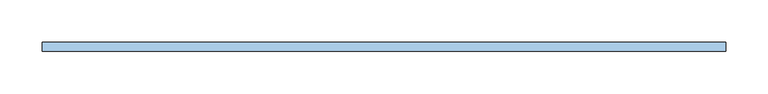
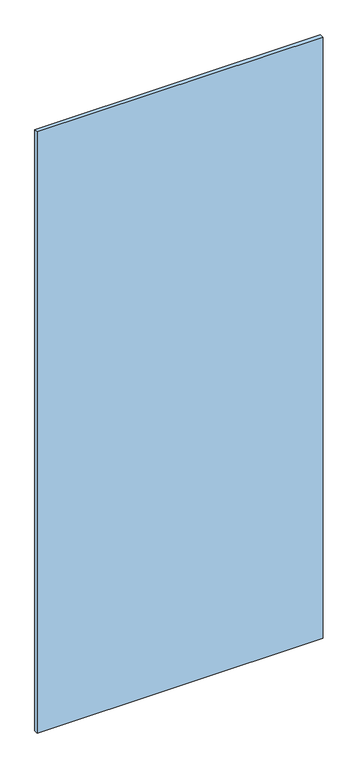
"""IFC4 building model written with IfcOpenShell, lengths in millimetres: window geometry, Baño 1 Fijo simple : CA-5a-cancel baño-1 fijo de 1.21 5."""

from ifc_helpers import new_model, si_unit, origin, origin_with_axes, place, context, project, spatial, polyline, outline, extrude, source, transform, mapped, element, save


def window_88231e85(model_context):
    return source(origin(), model_context, "Body", "SweptSolid", [
        extrude(outline(polyline([(-405.0, -5.5), (-405.0, 5.5), (405.0, 5.5), (405.0, -5.5), (-405.0, -5.5)])), origin_with_axes(), (0.0, 0.0, 1.0), 1800.0),
    ])


if __name__ == "__main__":
    model = new_model("IFC4")
    model_context = context("Model", 3, world=origin())
    ifc_project = project(units=[si_unit("LENGTHUNIT", "METRE", prefix="MILLI")], contexts=[model_context])
    site = spatial("IfcSite", under=ifc_project)
    building = spatial("IfcBuilding", under=site)
    placement = place(None, origin())
    window_shape = window_88231e85(model_context)
    element("IfcWindow", 1, ObjectType="Baño 1 Fijo simple : CA-5a-cancel baño-1 fijo de 1.21 5", at=placement, inside=building, context=model_context, shape_type="MappedRepresentation", body=[
        mapped(window_shape, transform((0.0, 0.0, 0.0), x_axis=(1.0, 0.0, 0.0), y_axis=(0.0, 1.0, 0.0), z_axis=(0.0, 0.0, 1.0))),
    ])
    save(model, "model.ifc")
